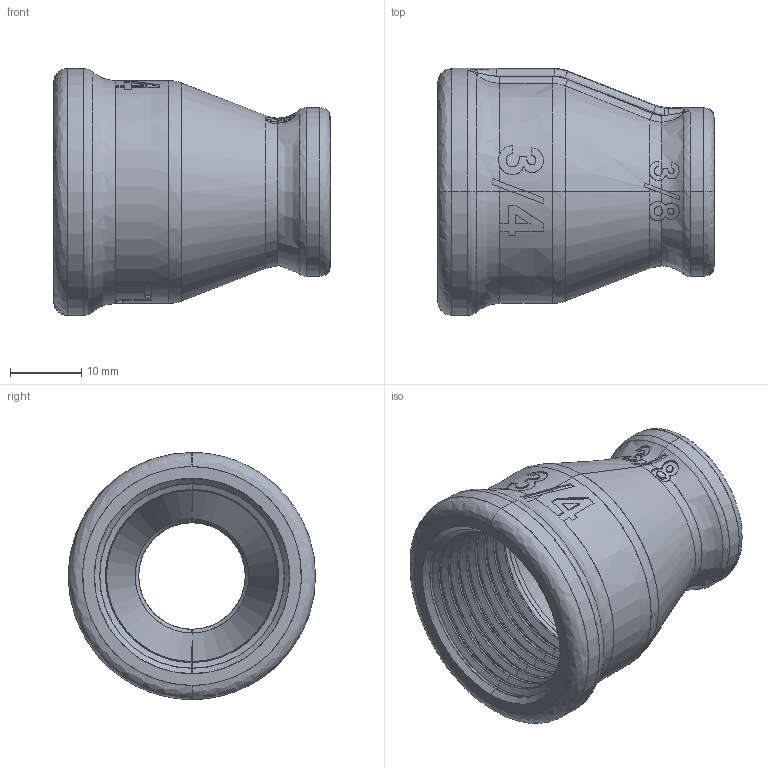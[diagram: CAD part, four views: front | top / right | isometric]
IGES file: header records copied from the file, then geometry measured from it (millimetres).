
Start section: SolidWorks IGES file using analytic representation for surfaces
Global section: file name: C:\Users\Joel Rosa\Desktop\Tubulação\12-32-OK\12-32-028.IGS; native system: SolidWorks 2011; preprocessor: SolidWorks 2011; author: Joel Rosa; date: 121208.223906; units: millimetre
Bounding box: 39 x 34.8 x 34.8 mm (x, y, z)
Surface area: 7955.4 mm2 (no closed solid volume)
Topology: 0 solids, 0 shells, 387 faces, 4048 edges, 4044 vertices
Faces by surface type: bspline 288, revolution 99
